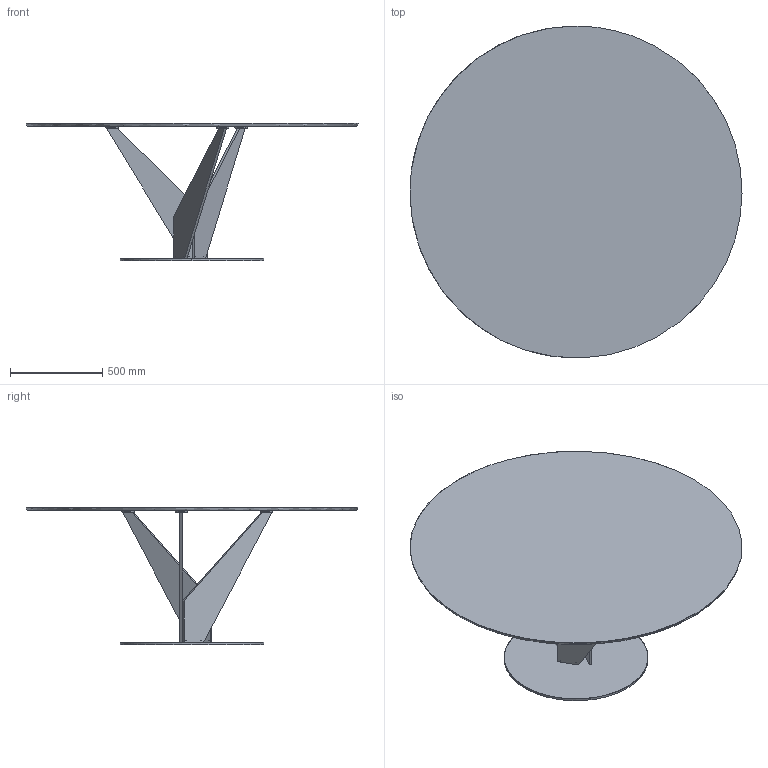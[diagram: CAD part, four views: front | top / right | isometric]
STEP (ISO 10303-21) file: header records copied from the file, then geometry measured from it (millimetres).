
FILE_DESCRIPTION(/* description */ (''),/* implementation_level */ '2;1');
FILE_NAME(/* name */ 'EPSYLO~1',/* time_stamp */ '2021-07-07T18:46:33+02:00',/* author */ (''),/* organization */ (''),/* preprocessor_version */ 'ST-DEVELOPER v16.5',/* originating_system */ '',/* authorisation */ '');
FILE_SCHEMA (('AUTOMOTIVE_DESIGN'));
Length unit declared in the file: millimetre
Products named in the file (1): Document
Bounding box: 1799.78 x 1799.12 x 744.73 mm (x, y, z)
Volume: 52274062.7 mm3; surface area: 7981479.6 mm2
Topology: 13 solids, 13 shells, 177 faces, 483 edges, 344 vertices
Faces by surface type: bspline 97, plane 80
Entity records: 7343 total; most frequent: CARTESIAN_POINT 4278, ORIENTED_EDGE 966, EDGE_CURVE 483, VERTEX_POINT 344, EDGE_LOOP 231, B_SPLINE_CURVE_WITH_KNOTS 223, ADVANCED_FACE 177, FACE_OUTER_BOUND 177
